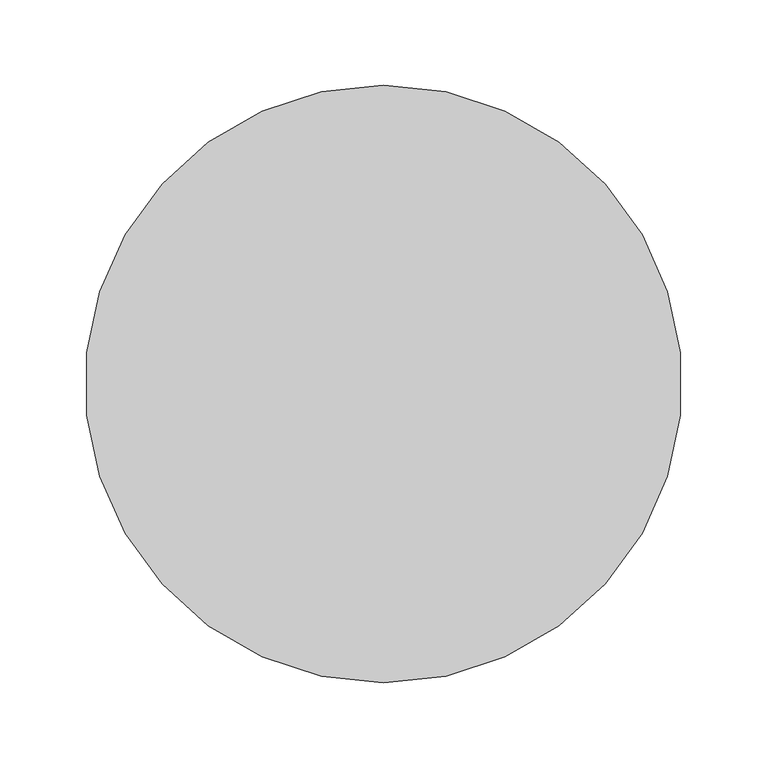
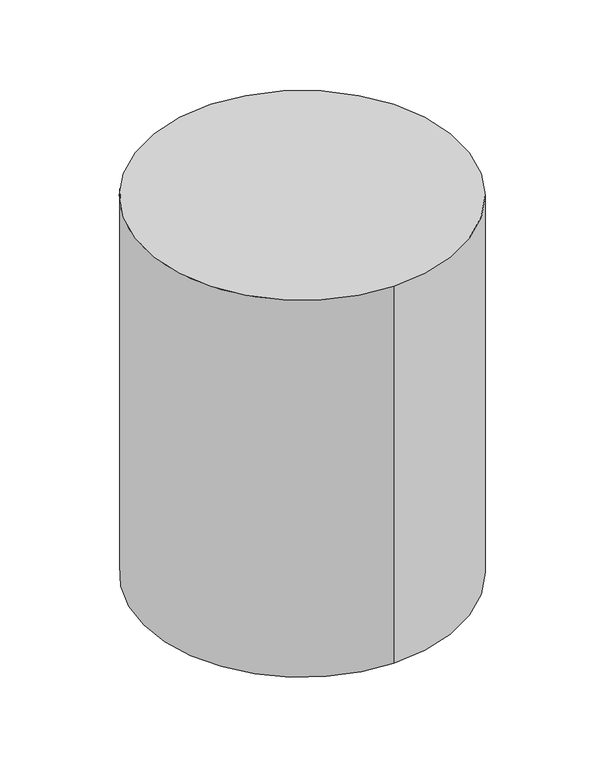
"""IFC4 building model written with IfcOpenShell, lengths in millimetres: proxy geometry, DMS-BWIC Family : BWIC_Circle."""

import ifcopenshell
import ifcopenshell.guid

model = None  # the IFC model being written
_history = None  # IfcOwnerHistory: only IFC2X3 demands one
_inside = {}  # id of a spatial element -> (the spatial element, [elements in it])
_under = {}  # id of a project, library or spatial element -> (it, [spatial elements below it])
_declared = {}  # id of a project -> (the project, [libraries it declares])
_typed = {}  # id of a type object -> (the type object, [elements of that type])
_made_of = {}  # id of a material, layer set ... -> (it, [elements and type objects made of it])


def new_model(schema):
    """Start an empty IFC model of exactly this schema.

    Asked for "IFC4X3", IfcOpenShell would pick the latest addendum, in which some entities
    have other attributes; the version numbers below select the first issue.
    IFC2X3 requires an IfcOwnerHistory on every rooted entity: one is made here for all.
    """
    global model, _history
    if schema == "IFC4X3":
        model = ifcopenshell.file(schema_version=(4, 3, 0, 0))
    else:
        model = ifcopenshell.file(schema=schema)
    _inside.clear()
    _under.clear()
    _declared.clear()
    _typed.clear()
    _made_of.clear()
    _history = None
    if model.schema == "IFC2X3":
        org = make("IfcOrganization", Name="unknown")
        user = make(
            "IfcPersonAndOrganization",
            ThePerson=make("IfcPerson", FamilyName="unknown"),
            TheOrganization=org,
        )
        app = make(
            "IfcApplication",
            ApplicationDeveloper=org,
            Version="unknown",
            ApplicationFullName="unknown",
            ApplicationIdentifier="unknown",
        )
        _history = make(
            "IfcOwnerHistory",
            OwningUser=user,
            OwningApplication=app,
            ChangeAction="ADDED",
            CreationDate=0,
        )
    return model


def make(cls, **values):
    """One entity of the class cls with the attributes given. An attribute that is None is left unset."""
    return model.create_entity(
        cls, **{name: value for name, value in values.items() if value is not None}
    )


def rooted(cls, **values):
    """An entity with a GlobalId (a new one), such as an element, a storey or a relation."""
    return make(cls, GlobalId=ifcopenshell.guid.new(), OwnerHistory=_history, **values)


def si_unit(unit_type, name, prefix=None):
    """IfcSIUnit, for example si_unit("LENGTHUNIT", "METRE", prefix="MILLI")."""
    return make("IfcSIUnit", UnitType=unit_type, Prefix=prefix, Name=name)


def assignment(units):
    """IfcUnitAssignment: the units of a project."""
    return None if units is None else make("IfcUnitAssignment", Units=units)


def point(xyz):
    """IfcCartesianPoint."""
    return None if xyz is None else make("IfcCartesianPoint", Coordinates=xyz)


def direction(xyz):
    """IfcDirection."""
    return None if xyz is None else make("IfcDirection", DirectionRatios=xyz)


def frame(location, z_axis=None, x_axis=None):
    """IfcAxis2Placement3D, a coordinate frame: its origin and axes. An axis left out is left unset."""
    return make(
        "IfcAxis2Placement3D",
        Location=point(location),
        Axis=direction(z_axis),
        RefDirection=direction(x_axis),
    )


def frame_2d(location, x_axis=None):
    """IfcAxis2Placement2D, a coordinate frame in the plane: its origin and x axis."""
    return make(
        "IfcAxis2Placement2D", Location=point(location), RefDirection=direction(x_axis)
    )


def origin():
    """The frame at (0, 0, 0) with its axes left unset."""
    return frame((0.0, 0.0, 0.0))


def origin_2d():
    """The frame at (0, 0) in the plane with its x axis left unset."""
    return frame_2d((0.0, 0.0))


def place(relative_to, where):
    """IfcLocalPlacement: puts the frame where relative to a parent placement (None: the world)."""
    return make(
        "IfcLocalPlacement", PlacementRelTo=relative_to, RelativePlacement=where
    )


def context(
    kind, dimensions, precision=None, world=None, true_north=None, identifier=None
):
    """IfcGeometricRepresentationContext, for example the 3D "Model" context."""
    return make(
        "IfcGeometricRepresentationContext",
        ContextIdentifier=identifier,
        ContextType=kind,
        CoordinateSpaceDimension=dimensions,
        Precision=precision,
        WorldCoordinateSystem=world,
        TrueNorth=true_north,
    )


def project(units=None, contexts=None):
    """IfcProject with its units and contexts."""
    return rooted(
        "IfcProject",
        Name="project",
        RepresentationContexts=contexts,
        UnitsInContext=assignment(units),
    )


def spatial(cls, under=None, at=None, **own):
    """A site, building, storey or space (cls), placed at a placement, below another one or the project."""
    s = rooted(cls, ObjectPlacement=at, **own)
    if under is not None:
        _under.setdefault(under.id(), (under, []))[1].append(s)
    return s


def circle_curve(where, radius):
    """IfcCircle in the frame where."""
    return make("IfcCircle", Position=where, Radius=radius)


def trimmed(basis, trim1, trim2, sense, master):
    """IfcTrimmedCurve: the piece of a basis curve between two trims."""
    return make(
        "IfcTrimmedCurve",
        BasisCurve=basis,
        Trim1=trim1,
        Trim2=trim2,
        SenseAgreement=sense,
        MasterRepresentation=master,
    )


def segment(curve, same_sense, transition):
    """IfcCompositeCurveSegment."""
    return make(
        "IfcCompositeCurveSegment",
        Transition=transition,
        SameSense=same_sense,
        ParentCurve=curve,
    )


def composite_curve(segments, self_intersect=None):
    """IfcCompositeCurve: segments joined end to end."""
    return make("IfcCompositeCurve", Segments=segments, SelfIntersect=self_intersect)


def outline(outer, holes=None, kind="AREA"):
    """IfcArbitraryClosedProfileDef: a profile drawn as a closed curve; with holes, ...WithVoids."""
    if holes is None:
        return make("IfcArbitraryClosedProfileDef", ProfileType=kind, OuterCurve=outer)
    return make(
        "IfcArbitraryProfileDefWithVoids",
        ProfileType=kind,
        OuterCurve=outer,
        InnerCurves=holes,
    )


def extrude(swept, where, along, depth):
    """IfcExtrudedAreaSolid: the profile swept, set in the frame where, extruded along a direction by depth."""
    return make(
        "IfcExtrudedAreaSolid",
        SweptArea=swept,
        Position=where,
        ExtrudedDirection=direction(along),
        Depth=depth,
    )


def shape(context_of_items, identifier, shape_type, items):
    """IfcShapeRepresentation: the items that make up one representation, for example the "Body"."""
    return make(
        "IfcShapeRepresentation",
        ContextOfItems=context_of_items,
        RepresentationIdentifier=identifier,
        RepresentationType=shape_type,
        Items=items,
    )


def source(mapping_origin, context_of_items, identifier, shape_type, items):
    """IfcRepresentationMap: a shape defined once, which mapped items show again and again."""
    return make(
        "IfcRepresentationMap",
        MappingOrigin=mapping_origin,
        MappedRepresentation=shape(context_of_items, identifier, shape_type, items),
    )


def transform(
    local_origin,
    x_axis=None,
    y_axis=None,
    z_axis=None,
    scale=None,
    scale2=None,
    scale3=None,
    uniform=True,
):
    """IfcCartesianTransformationOperator3D, or its non-uniform kind. x_axis, y_axis, z_axis: its Axis1, 2, 3."""
    if uniform:
        return make(
            "IfcCartesianTransformationOperator3D",
            Axis1=direction(x_axis),
            Axis2=direction(y_axis),
            LocalOrigin=point(local_origin),
            Scale=scale,
            Axis3=direction(z_axis),
        )
    return make(
        "IfcCartesianTransformationOperator3DnonUniform",
        Axis1=direction(x_axis),
        Axis2=direction(y_axis),
        LocalOrigin=point(local_origin),
        Scale=scale,
        Axis3=direction(z_axis),
        Scale2=scale2,
        Scale3=scale3,
    )


def mapped(mapping_source, mapping_target):
    """IfcMappedItem: shows the shape of a source again, moved by a transform."""
    return make(
        "IfcMappedItem", MappingSource=mapping_source, MappingTarget=mapping_target
    )


def made_of(thing, what):
    """Note that an element or type object is made of a material, layer set ...; save() writes the relation."""
    if what is not None:
        _made_of.setdefault(what.id(), (what, []))[1].append(thing)
    return thing


def element(
    cls,
    number,
    at=None,
    inside=None,
    cuts=None,
    type_object=None,
    material=None,
    context=None,
    identifier="Body",
    shape_type=None,
    held_by="IfcProductDefinitionShape",
    body=None,
    shapes=None,
    **own,
):
    """One element of the class cls, such as IfcWall. Its Tag is "e" and its number.

    at: its placement. inside: the storey or other place that contains it. cuts: it is an
    opening in that element (IfcRelVoidsElement). A single representation is given by context,
    identifier, shape_type and body (its items); several are given by shapes. held_by: the class
    of the entity that holds the representations. save() writes the other relations.
    """
    e = rooted(cls, Tag="e%d" % number, ObjectPlacement=at, **own)
    if body is not None:
        shapes = [shape(context, identifier, shape_type, body)]
    if shapes is not None:
        e.Representation = make(held_by, Representations=shapes)
    if inside is not None:
        _inside.setdefault(inside.id(), (inside, []))[1].append(e)
    if cuts is not None:
        rooted(
            "IfcRelVoidsElement", RelatingBuildingElement=cuts, RelatedOpeningElement=e
        )
    if type_object is not None:
        _typed.setdefault(type_object.id(), (type_object, []))[1].append(e)
    return made_of(e, material)


def aggregate(whole, parts):
    """IfcRelAggregates: a whole, such as a stair, and the parts it consists of."""
    return rooted("IfcRelAggregates", RelatingObject=whole, RelatedObjects=parts)


def save(model, path):
    """Write the relations noted so far, then the file.

    IfcRelAggregates (storeys below a building ...), IfcRelContainedInSpatialStructure (elements
    in a storey), IfcRelDefinesByType, IfcRelAssociatesMaterial and IfcRelDeclares: one each for
    every whole, place, type object, material and project.
    """
    for whole, parts in _under.values():
        aggregate(whole, parts)
    for where, things in _inside.values():
        rooted(
            "IfcRelContainedInSpatialStructure",
            RelatedElements=things,
            RelatingStructure=where,
        )
    for kind, things in _typed.values():
        rooted("IfcRelDefinesByType", RelatedObjects=things, RelatingType=kind)
    for what, things in _made_of.values():
        rooted("IfcRelAssociatesMaterial", RelatedObjects=things, RelatingMaterial=what)
    for by, libraries in _declared.values():
        rooted("IfcRelDeclares", RelatingContext=by, RelatedDefinitions=libraries)
    model.write(path)


def generic_models_9a4e261b(model_context):
    return source(origin(), model_context, "Body", "SweptSolid", [
        extrude(outline(composite_curve([segment(trimmed(circle_curve(origin_2d(), 175.0), [point((0.0, 175.0))], [point((0.0, -175.0))], False, "CARTESIAN"), True, "CONTINUOUS"), segment(trimmed(circle_curve(origin_2d(), 175.0), [point((0.0, -175.0))], [point((0.0, 175.0))], False, "CARTESIAN"), True, "CONTINUOUS")], self_intersect=False)), frame((0.0, 0.0, -440.0), z_axis=(0.0, 0.0, 1.0), x_axis=(1.0, 0.0, 0.0)), (0.0, 0.0, 1.0), 440.0),
        extrude(outline(composite_curve([segment(trimmed(circle_curve(origin_2d(), 175.0), [point((0.0, 175.0))], [point((0.0, -175.0))], False, "CARTESIAN"), True, "CONTINUOUS"), segment(trimmed(circle_curve(origin_2d(), 175.0), [point((0.0, -175.0))], [point((0.0, 175.0))], False, "CARTESIAN"), True, "CONTINUOUS")], self_intersect=False)), frame((0.0, 0.0, -440.0), z_axis=(0.0, 0.0, 1.0), x_axis=(1.0, 0.0, 0.0)), (0.0, 0.0, 1.0), 440.0),
    ])


if __name__ == "__main__":
    model = new_model("IFC4")
    model_context = context("Model", 3, world=origin())
    ifc_project = project(units=[si_unit("LENGTHUNIT", "METRE", prefix="MILLI")], contexts=[model_context])
    site = spatial("IfcSite", under=ifc_project)
    building = spatial("IfcBuilding", under=site)
    placement = place(None, origin())
    generic_models_shape = generic_models_9a4e261b(model_context)
    element("IfcBuildingElementProxy", 1, Name="DMS-BWIC Family : BWIC_Circle", ObjectType="DMS-BWIC Family : BWIC_Circle", at=placement, inside=building, context=model_context, shape_type="MappedRepresentation", body=[
        mapped(generic_models_shape, transform((0.0, 0.0, 0.0), x_axis=(1.0, 0.0, 0.0), y_axis=(0.0, 1.0, 0.0), z_axis=(0.0, 0.0, 1.0))),
    ])
    save(model, "model.ifc")
